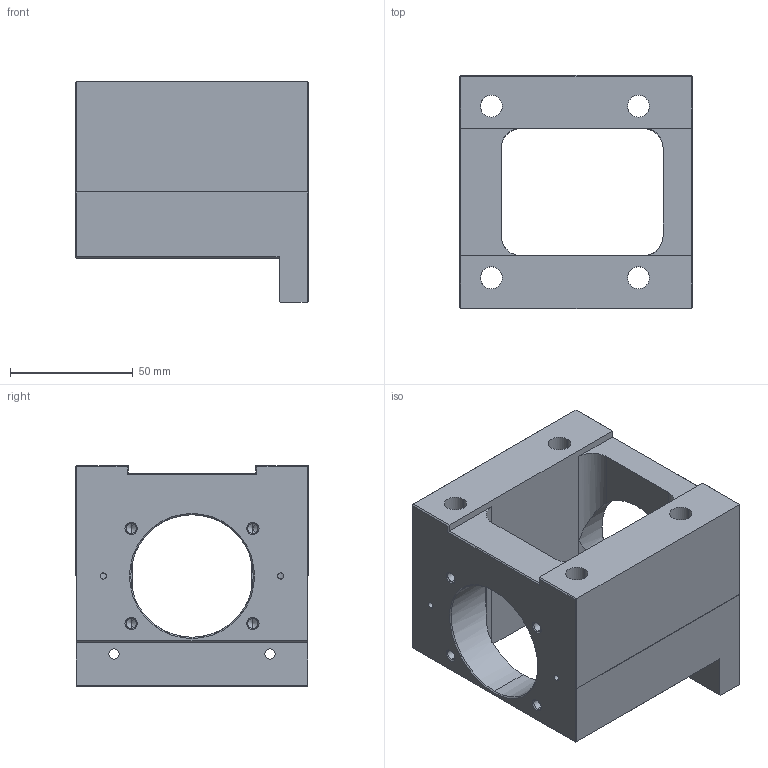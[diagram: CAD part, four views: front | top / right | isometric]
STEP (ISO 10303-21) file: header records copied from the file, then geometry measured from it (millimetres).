
FILE_DESCRIPTION (( 'STEP AP203' ), '1' );
FILE_NAME ('MBH15H-EP.STEP', '2017-12-28T06:29:54', ( '' ), ( '' ), 'SwSTEP 2.0', 'SolidWorks 2017', '' );
FILE_SCHEMA (( 'CONFIG_CONTROL_DESIGN' ));
Length unit declared in the file: millimetre
Products named in the file (1): MBH15H-EP
Bounding box: 95 x 95 x 90 mm (x, y, z)
Volume: 319412.7 mm3; surface area: 66241.3 mm2
Topology: 1 solids, 1 shells, 162 faces, 408 edges, 237 vertices
Faces by surface type: cone 58, cylinder 56, plane 48
Entity records: 4975 total; most frequent: CARTESIAN_POINT 1010, DIRECTION 848, ORIENTED_EDGE 776, EDGE_CURVE 388, AXIS2_PLACEMENT_3D 311, VERTEX_POINT 237, LINE 226, VECTOR 226
